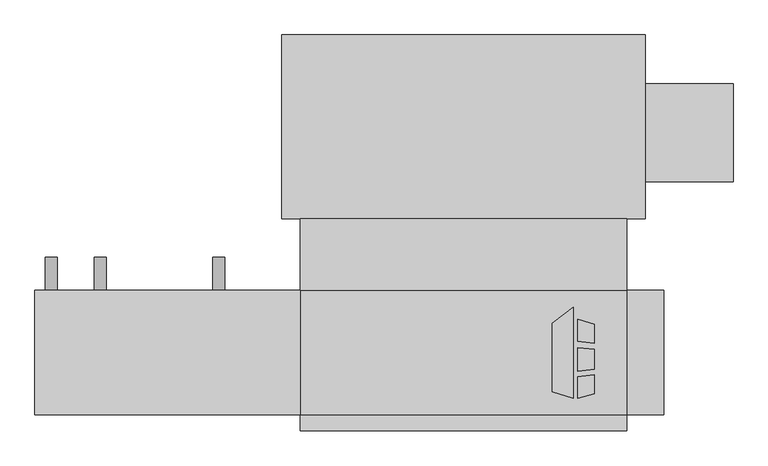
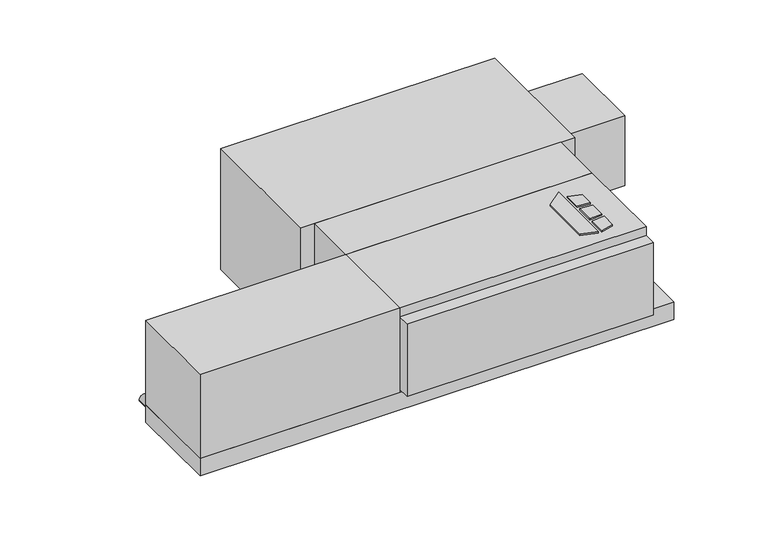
"""IFC4 building model written with IfcOpenShell, lengths in millimetres: proxy geometry, Concealed_Horizontal_Fan_Coil_Unit_With_Plenum_-_CPF_-_IEC_-_4-Pipe_LH : Size 03 - 115v/60Hz/1Ph - 4/1 Coil."""

from ifc_helpers import new_model, si_unit, point, frame, frame_2d, origin, origin_with_axes, place, context, project, spatial, polyline, circle_curve, trimmed, segment, composite_curve, outline, extrude, source, transform, mapped, element, save


def mechanical_equipment_5e98ce93(model_context):
    return source(origin(), model_context, "Body", "SweptSolid", [
        extrude(outline(polyline([(290.2019761, -193.0453476), (322.7602728, -167.6080184), (322.7602728, -309.5625), (290.2019761, -299.3429201), (290.2019761, -193.0453476)])), origin_with_axes(), (0.0, 0.0, 1.0), 3.175),
        extrude(outline(polyline([(329.5186058, -220.917352), (329.5186058, -186.4374379), (355.6, -194.6240115), (355.6, -224.1197446), (329.5186058, -220.917352)])), origin_with_axes(), (0.0, 0.0, 1.0), 3.175),
        extrude(outline(polyline([(355.6, -302.5740115), (329.5186058, -309.5625), (329.5186058, -276.3411996), (355.6, -272.7993564), (355.6, -302.5740115)])), origin_with_axes(), (0.0, 0.0, 1.0), 3.175),
        extrude(outline(polyline([(355.6, -233.2013277), (355.6, -264.451483), (329.5186058, -267.192748), (329.5186058, -231.3350378), (355.6, -233.2013277)])), origin_with_axes(), (0.0, 0.0, 1.0), 3.175),
        extrude(outline(polyline([(-101.6, -30.1625), (406.4, -30.1625), (406.4, -141.2875), (-101.6, -141.2875), (-101.6, -30.1625)])), frame((0.0, 0.0, -184.15), z_axis=(0.0, 0.0, 1.0), x_axis=(1.0, 0.0, 0.0)), (0.0, 0.0, 1.0), 184.15),
        extrude(outline(polyline([(-514.35, -334.9625), (-514.35, -141.2875), (-101.6, -141.2875), (-101.6, -334.9625), (-514.35, -334.9625)])), frame((0.0, 0.0, -184.15), z_axis=(0.0, 0.0, 1.0), x_axis=(1.0, 0.0, 0.0)), (0.0, 0.0, 1.0), 184.15),
        extrude(outline(polyline([(463.55, -141.2875), (463.55, -334.9625), (-514.35, -334.9625), (-514.35, -141.2875), (463.55, -141.2875)])), frame((0.0, 0.0, -222.25), z_axis=(0.0, 0.0, 1.0), x_axis=(1.0, 0.0, 0.0)), (0.0, 0.0, 1.0), 38.1),
        extrude(outline(composite_curve([segment(trimmed(circle_curve(frame_2d((-158.75, -412.75)), 9.525), [point((-158.75, -403.225))], [point((-158.75, -422.275))], False, "CARTESIAN"), True, "CONTINUOUS"), segment(trimmed(circle_curve(frame_2d((-158.75, -412.75)), 9.525), [point((-158.75, -422.275))], [point((-158.75, -403.225))], False, "CARTESIAN"), True, "CONTINUOUS")], self_intersect=False)), frame((0.0, -141.2875, 0.0), z_axis=(0.0, 1.0, 0.0), x_axis=(0.0, 0.0, 1.0)), (0.0, 0.0, 1.0), 50.8),
        extrude(outline(composite_curve([segment(trimmed(circle_curve(frame_2d((-69.85, -412.75)), 9.525), [point((-69.85, -403.225))], [point((-69.85, -422.275))], False, "CARTESIAN"), True, "CONTINUOUS"), segment(trimmed(circle_curve(frame_2d((-69.85, -412.75)), 9.525), [point((-69.85, -422.275))], [point((-69.85, -403.225))], False, "CARTESIAN"), True, "CONTINUOUS")], self_intersect=False)), frame((0.0, -141.2875, 0.0), z_axis=(0.0, 1.0, 0.0), x_axis=(0.0, 0.0, 1.0)), (0.0, 0.0, 1.0), 50.8),
        extrude(outline(composite_curve([segment(trimmed(circle_curve(frame_2d((-69.85, -228.6)), 9.525), [point((-69.85, -219.075))], [point((-69.85, -238.125))], False, "CARTESIAN"), True, "CONTINUOUS"), segment(trimmed(circle_curve(frame_2d((-69.85, -228.6)), 9.525), [point((-69.85, -238.125))], [point((-69.85, -219.075))], False, "CARTESIAN"), True, "CONTINUOUS")], self_intersect=False)), frame((0.0, -141.2875, 0.0), z_axis=(0.0, 1.0, 0.0), x_axis=(0.0, 0.0, 1.0)), (0.0, 0.0, 1.0), 50.8),
        extrude(outline(composite_curve([segment(trimmed(circle_curve(frame_2d((-158.75, -228.6)), 9.525), [point((-158.75, -219.075))], [point((-158.75, -238.125))], False, "CARTESIAN"), True, "CONTINUOUS"), segment(trimmed(circle_curve(frame_2d((-158.75, -228.6)), 9.525), [point((-158.75, -238.125))], [point((-158.75, -219.075))], False, "CARTESIAN"), True, "CONTINUOUS")], self_intersect=False)), frame((0.0, -141.2875, 0.0), z_axis=(0.0, 1.0, 0.0), x_axis=(0.0, 0.0, 1.0)), (0.0, 0.0, 1.0), 50.8),
        extrude(outline(composite_curve([segment(trimmed(circle_curve(frame_2d((-209.55, -488.95)), 9.525), [point((-209.55, -498.475))], [point((-209.55, -479.425))], False, "CARTESIAN"), True, "CONTINUOUS"), segment(trimmed(circle_curve(frame_2d((-209.55, -488.95)), 9.525), [point((-209.55, -479.425))], [point((-209.55, -498.475))], False, "CARTESIAN"), True, "CONTINUOUS")], self_intersect=False)), frame((0.0, -141.2875, 0.0), z_axis=(0.0, 1.0, 0.0), x_axis=(0.0, 0.0, 1.0)), (0.0, 0.0, 1.0), 50.8),
        extrude(outline(polyline([(406.4, -334.9625), (406.4, -360.3625), (-101.6, -360.3625), (-101.6, -334.9625), (406.4, -334.9625)])), frame((0.0, 0.0, -177.8), z_axis=(0.0, 0.0, 1.0), x_axis=(1.0, 0.0, 0.0)), (0.0, 0.0, 1.0), 158.75),
        extrude(outline(polyline([(406.4, -334.9625), (-101.6, -334.9625), (-101.6, -141.2875), (406.4, -141.2875), (406.4, -334.9625)])), frame((0.0, 0.0, -184.15), z_axis=(0.0, 0.0, 1.0), x_axis=(1.0, 0.0, 0.0)), (0.0, 0.0, 1.0), 184.15),
        extrude(outline(polyline([(434.975, 26.9875), (434.975, 179.3875), (571.5, 179.3875), (571.5, 26.9875), (434.975, 26.9875)])), frame((0.0, 0.0, -187.325), z_axis=(0.0, 0.0, 1.0), x_axis=(1.0, 0.0, 0.0)), (0.0, 0.0, 1.0), 152.4),
        extrude(outline(polyline([(-130.175, 255.5875), (434.975, 255.5875), (434.975, -30.1625), (-130.175, -30.1625), (-130.175, 255.5875)])), frame((0.0, 0.0, -263.525), z_axis=(0.0, 0.0, 1.0), x_axis=(1.0, 0.0, 0.0)), (0.0, 0.0, 1.0), 263.525),
    ])


if __name__ == "__main__":
    model = new_model("IFC4")
    model_context = context("Model", 3, world=origin())
    ifc_project = project(units=[si_unit("LENGTHUNIT", "METRE", prefix="MILLI")], contexts=[model_context])
    site = spatial("IfcSite", under=ifc_project)
    building = spatial("IfcBuilding", under=site)
    placement = place(None, origin())
    mechanical_equipment_shape = mechanical_equipment_5e98ce93(model_context)
    element("IfcBuildingElementProxy", 1, Name="Concealed_Horizontal_Fan_Coil_Unit_With_Plenum_-_CPF_-_IEC_-_4-Pipe_LH : Size 03 - 115v/60Hz/1Ph - 4/1 Coil", ObjectType="Concealed_Horizontal_Fan_Coil_Unit_With_Plenum_-_CPF_-_IEC_-_4-Pipe_LH : Size 03 - 115v/60Hz/1Ph - 4/1 Coil", at=placement, inside=building, context=model_context, shape_type="MappedRepresentation", body=[
        mapped(mechanical_equipment_shape, transform((0.0, 0.0, 0.0), x_axis=(1.0, 0.0, 0.0), y_axis=(0.0, 1.0, 0.0), z_axis=(0.0, 0.0, 1.0))),
    ])
    save(model, "model.ifc")
